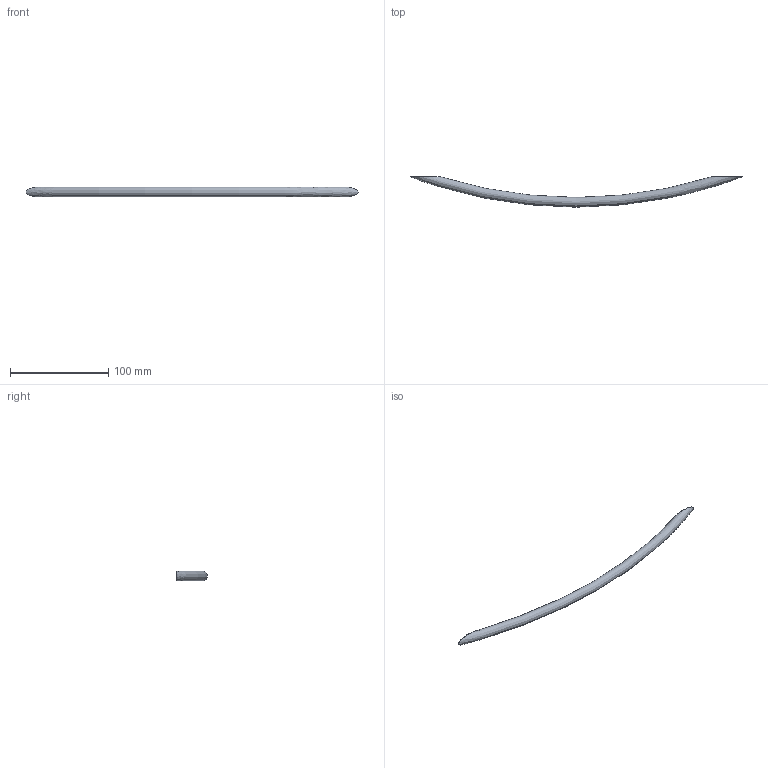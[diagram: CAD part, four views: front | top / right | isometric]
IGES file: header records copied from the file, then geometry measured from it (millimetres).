
Start section: Data from Parasolid IGES Translator 15.0.47, Copyright(c) 2006 Siemens P LM Software. All Rights Reserved.
Global section: file name: 9070724.igs; native system:  By UGS Corp.; preprocessor: XPlus GENERIC/IGES 3.0; author: Noname; organization: Noname; date: 20140827.155655; units: millimetre
Bounding box: 338 x 30.89 x 10 mm (x, y, z)
Surface area: 10492.9 mm2 (no closed solid volume)
Topology: 0 solids, 0 shells, 7 faces, 18 edges, 14 vertices
Faces by surface type: extrusion 4, revolution 3
